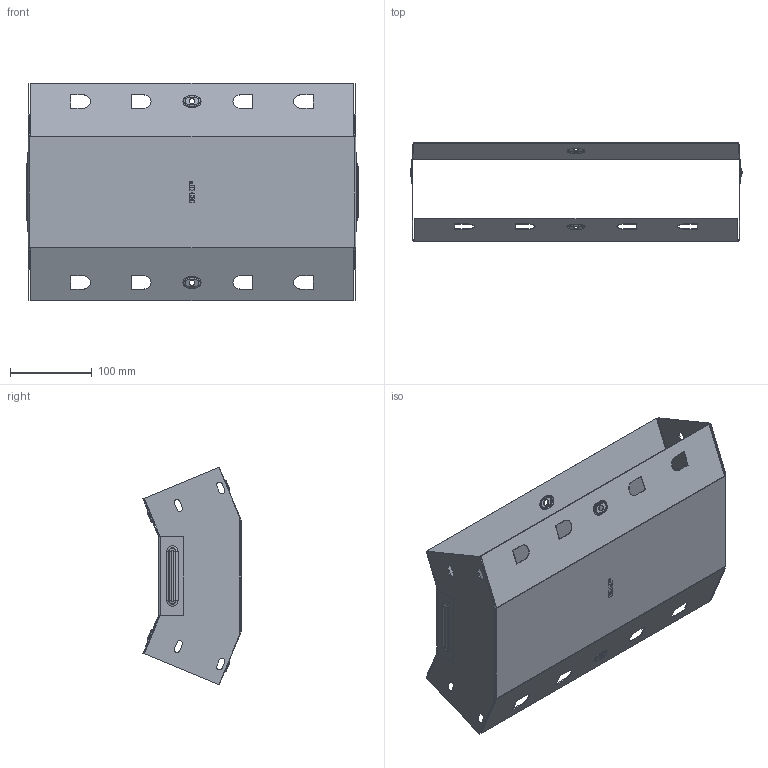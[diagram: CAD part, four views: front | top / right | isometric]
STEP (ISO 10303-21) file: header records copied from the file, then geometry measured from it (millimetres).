
FILE_DESCRIPTION (( 'STEP AP214' ), '1' );
FILE_NAME ('vi45100400_捘.STEP', '2019-06-10T08:30:03', ( '砐錪賧瘔蠈錪 Windows' ), ( '' ), 'SwSTEP 2.0', 'SolidWorks 2018', '' );
FILE_SCHEMA (( 'AUTOMOTIVE_DESIGN' ));
Length unit declared in the file: millimetre
Products named in the file (1): vi45100400_捘
Bounding box: 405.6 x 119.93 x 265.55 mm (x, y, z)
Volume: 188991.3 mm3; surface area: 476043.7 mm2
Topology: 2 solids, 2 shells, 468 faces, 1212 edges, 776 vertices
Faces by surface type: plane 254, cylinder 132, torus 64, bspline 18
Entity records: 15224 total; most frequent: CARTESIAN_POINT 3476, DIRECTION 2438, ORIENTED_EDGE 2424, EDGE_CURVE 1212, VECTOR 816, LINE 816, AXIS2_PLACEMENT_3D 811, VERTEX_POINT 776
